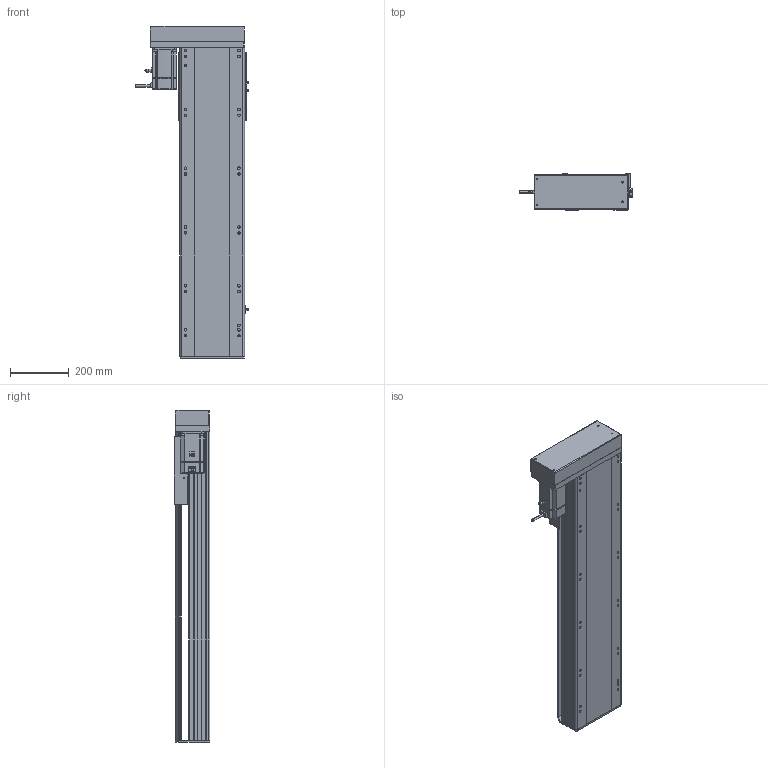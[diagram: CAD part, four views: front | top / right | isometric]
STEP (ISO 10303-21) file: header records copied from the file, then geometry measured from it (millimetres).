
FILE_DESCRIPTION (( 'STEP AP214' ), '1' );
FILE_NAME ('RTH22-XX-750-R-M75-C4.STEP', '2025-10-25T03:11:20', ( 'Microsoft' ), ( 'Microsoft' ), 'SwSTEP 2.0', 'SolidWorks 2018', '' );
FILE_SCHEMA (( 'AUTOMOTIVE_DESIGN' ));
Length unit declared in the file: millimetre
Products named in the file (10): RTH22-XX-750-R-M75-C4; N_RTH22-L-004-SFS25賑釱^RTH22-XX-XX-R-M75-C4; N_RTH22-L-018裔赽^RTH22-XX-XX-R-M75-C4; N_OMRON EE-SX672 传感器^RTH22-XX-XX-R-M75-C4; N_RTH22-L-011菁釱^RTH22-XX-XX-R-M75-C4; N_RTH22-GY-001耜裔^RTH22-XX-XX-R-M75-C4; N_RTH22-GY-013外置感应片^RTH22-XX-XX-R-M75-C4; N_RTH22-R-008-P75萇儂啣^RTH22-XX-XX-R-M75-C4; N_RTH22-L-007奻裔^RTH22-XX-XX-R-M75-C4; N_750W萇儂^RTH22-XX-XX-R-M75-C4
Assembly tree (11 placements, depth 2):
  RTH22-XX-750-R-M75-C4
    N_RTH22-L-011菁釱^RTH22-XX-XX-R-M75-C4
    N_RTH22-GY-001耜裔^RTH22-XX-XX-R-M75-C4
    N_750W萇儂^RTH22-XX-XX-R-M75-C4
    N_RTH22-R-008-P75萇儂啣^RTH22-XX-XX-R-M75-C4
    N_RTH22-L-007奻裔^RTH22-XX-XX-R-M75-C4
    N_OMRON EE-SX672 传感器^RTH22-XX-XX-R-M75-C4  x3
    N_RTH22-GY-013外置感应片^RTH22-XX-XX-R-M75-C4
    N_RTH22-L-004-SFS25賑釱^RTH22-XX-XX-R-M75-C4
    N_RTH22-L-018裔赽^RTH22-XX-XX-R-M75-C4
Bounding box: 384.7 x 122 x 1129.7 mm (x, y, z)
Volume: 16005714.8 mm3; surface area: 1825641.8 mm2
Topology: 11 solids, 11 shells, 1574 faces, 4297 edges, 2773 vertices
Faces by surface type: plane 791, cylinder 450, bspline 279, cone 54
Entity records: 39309 total; most frequent: CARTESIAN_POINT 12054, ORIENTED_EDGE 5578, DIRECTION 5235, EDGE_CURVE 2789, VERTEX_POINT 1809, AXIS2_PLACEMENT_3D 1750, LINE 1735, VECTOR 1735
